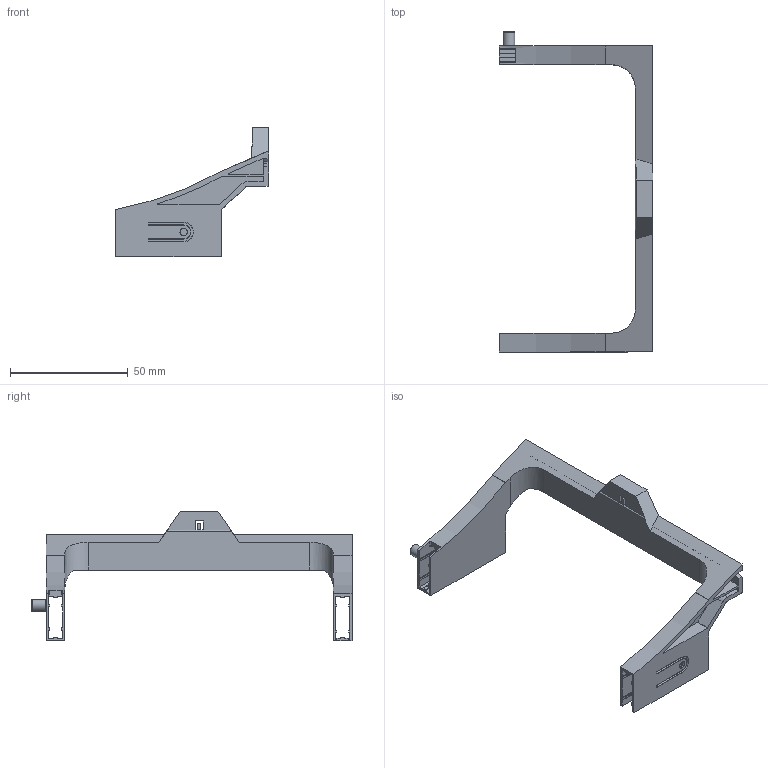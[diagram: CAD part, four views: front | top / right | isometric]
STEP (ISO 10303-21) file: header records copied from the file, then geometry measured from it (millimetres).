
FILE_DESCRIPTION(/* description */ ('Unknown'),/* implementation_level */ '2;1');
FILE_NAME(/* name */ 'vyrobe_model_bc_rybak',/* time_stamp */ '2025-05-16T00:09:02+02:00',/* author */ ('Unknown'),/* organization */ ('Unknown'),/* preprocessor_version */ 'ST-DEVELOPER v19.4',/* originating_system */ 'Solid Edge',/* authorisation */ 'Unknown');
FILE_SCHEMA (('AUTOMOTIVE_DESIGN {1 0 10303 214 3 1 1}'));
Length unit declared in the file: millimetre
Products named in the file (1): bc_soucast_final4
Bounding box: 65 x 136 x 55 mm (x, y, z)
Volume: 18163.8 mm3; surface area: 22531.3 mm2
Topology: 1 solids, 1 shells, 464 faces, 1214 edges, 729 vertices
Faces by surface type: cylinder 222, plane 164, torus 47, sphere 29, bspline 2
Full cylindrical faces by diameter (mm): 3 x2, 5 x1
Entity records: 14008 total; most frequent: DIRECTION 2569, CARTESIAN_POINT 2442, ORIENTED_EDGE 2352, EDGE_CURVE 1176, AXIS2_PLACEMENT_3D 945, VERTEX_POINT 727, LINE 679, VECTOR 679
